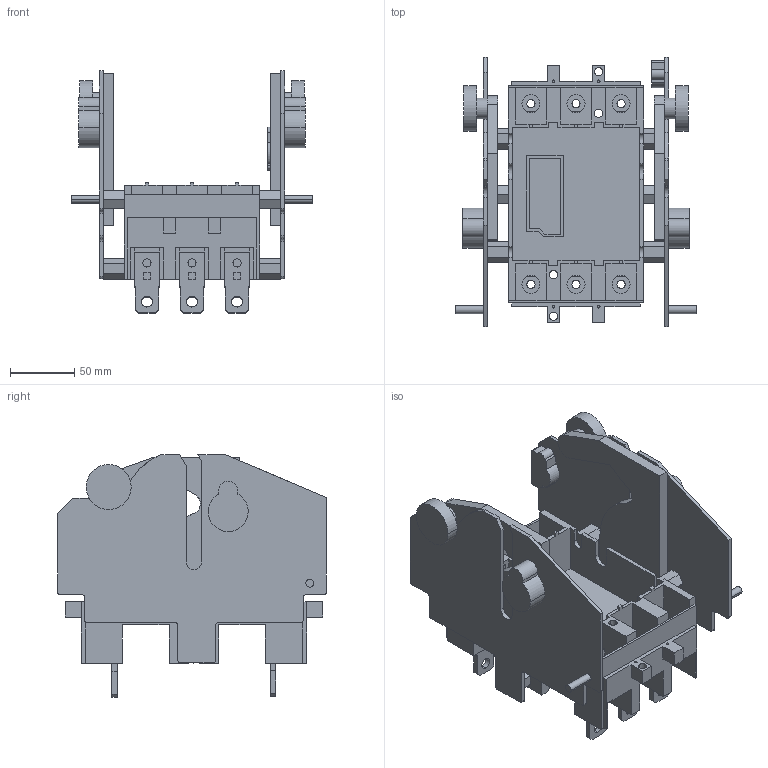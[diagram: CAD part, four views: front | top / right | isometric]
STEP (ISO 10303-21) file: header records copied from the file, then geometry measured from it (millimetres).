
FILE_DESCRIPTION (( 'STEP AP214' ), '1' );
FILE_NAME ('Êîìïëåêò äëÿ âûäâèæíîãî èñïîëíåíèÿ OptiMat D100, D160, D250 ãîðèçîíòàëüíûå âûâîäû âàðèàíò 2.STEP', '2023-05-03T10:27:32', ( '' ), ( '' ), 'SwSTEP 2.0', 'SolidWorks 2018', '' );
FILE_SCHEMA (( 'AUTOMOTIVE_DESIGN' ));
Length unit declared in the file: millimetre
Products named in the file (1): Êîìïëåêò äëÿ âûäâèæíîãî èñïîëíåíèÿ OptiMat D100, D160, D250 ãîðèçîíòàëüíûå âûâîäû âàðèàíò 2
Bounding box: 187.8 x 209 x 188.6 mm (x, y, z)
Volume: 707308.5 mm3; surface area: 293472.7 mm2
Topology: 7 solids, 7 shells, 584 faces, 1653 edges, 1086 vertices
Faces by surface type: plane 440, cylinder 144
Entity records: 25429 total; most frequent: CARTESIAN_POINT 3330, ORIENTED_EDGE 3306, DIRECTION 3117, EDGE_CURVE 1653, LINE 1355, VECTOR 1355, VERTEX_POINT 1086, AXIS2_PLACEMENT_3D 881
